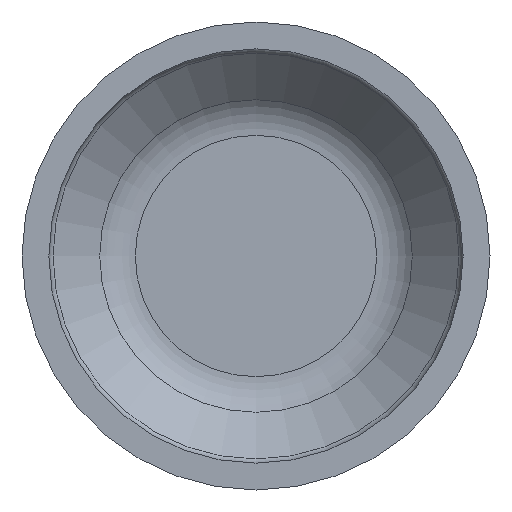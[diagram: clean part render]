
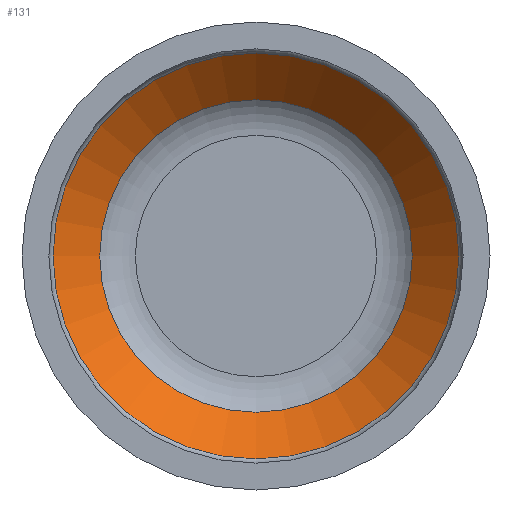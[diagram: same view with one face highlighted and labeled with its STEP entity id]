
A CAD part, left-side view. The second image highlights one B-rep face of the part: STEP entity #131.
In plain terms, the highlighted conical face has half-angle 45 degrees and reference radius 76.763 mm.
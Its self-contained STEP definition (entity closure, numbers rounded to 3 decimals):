
#18=CONICAL_SURFACE($,#151,76.763,45.);
#23=FACE_BOUND($,#50,.T.);
#34=FACE_OUTER_BOUND($,#49,.T.);
#49=EDGE_LOOP($,(#99));
#50=EDGE_LOOP($,(#100));
#64=CIRCLE($,#150,66.782);
#65=CIRCLE($,#152,86.743);
#74=VERTEX_POINT($,#221);
#75=VERTEX_POINT($,#224);
#84=EDGE_CURVE($,#74,#74,#64,.T.);
#85=EDGE_CURVE($,#75,#75,#65,.T.);
#99=ORIENTED_EDGE($,*,*,#85,.F.);
#100=ORIENTED_EDGE($,*,*,#84,.T.);
#131=ADVANCED_FACE($,(#34,#23),#18,.F.);
#150=AXIS2_PLACEMENT_3D($,#222,#184,#185);
#151=AXIS2_PLACEMENT_3D($,#223,#186,#187);
#152=AXIS2_PLACEMENT_3D($,#225,#188,#189);
#184=DIRECTION('center_axis',(1.,0.,0.));
#185=DIRECTION('ref_axis',(0.,0.,-1.));
#186=DIRECTION('center_axis',(-1.,0.,0.));
#187=DIRECTION('ref_axis',(0.,1.,0.));
#188=DIRECTION('center_axis',(1.,0.,0.));
#189=DIRECTION('ref_axis',(0.,0.,-1.));
#221=CARTESIAN_POINT('',(34.203,66.782,0.));
#222=CARTESIAN_POINT('Origin',(34.203,0.,0.));
#223=CARTESIAN_POINT('Origin',(24.223,0.,0.));
#224=CARTESIAN_POINT('',(14.243,86.743,0.));
#225=CARTESIAN_POINT('Origin',(14.243,0.,0.));
